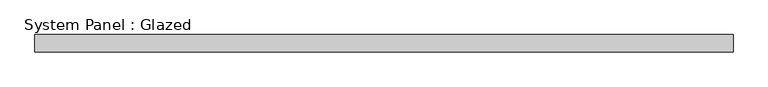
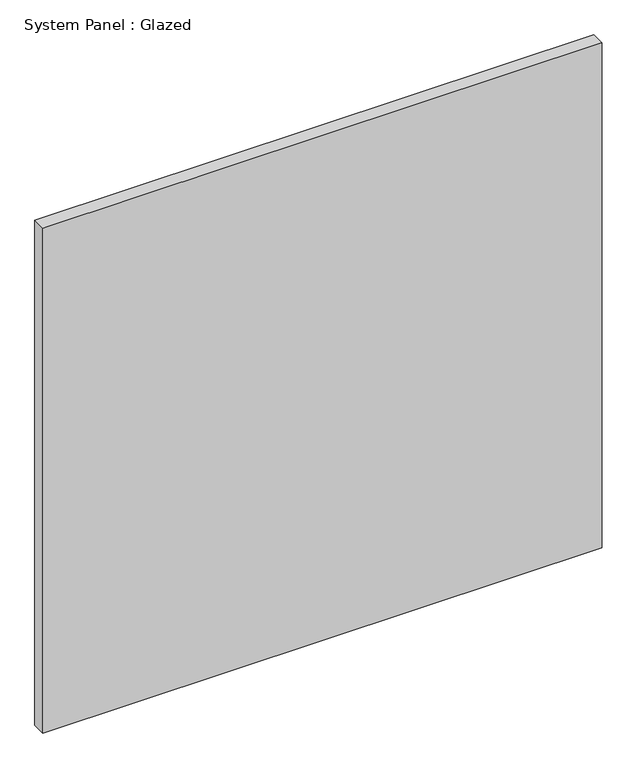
"""IFC4 building model written with IfcOpenShell, lengths in millimetres: plate geometry, System Panel : Glazed."""

from ifc_helpers import new_model, si_unit, origin, origin_with_axes, place, context, project, spatial, polyline, outline, extrude, source, transform, mapped, element, save


def system_panel_glazed_a1730ece(model_context):
    return source(origin(), model_context, "Body", "SweptSolid", [
        extrude(outline(polyline([(513.08, 19.05), (-513.08, 19.05), (-513.08, 44.45), (513.08, 44.45), (513.08, 19.05)])), origin_with_axes(), (0.0, 0.0, 1.0), 979.723638),
    ])


if __name__ == "__main__":
    model = new_model("IFC4")
    model_context = context("Model", 3, world=origin())
    ifc_project = project(units=[si_unit("LENGTHUNIT", "METRE", prefix="MILLI")], contexts=[model_context])
    site = spatial("IfcSite", under=ifc_project)
    building = spatial("IfcBuilding", under=site)
    placement = place(None, origin())
    system_panel_glazed_shape = system_panel_glazed_a1730ece(model_context)
    element("IfcPlate", 1, ObjectType="System Panel : Glazed", at=placement, inside=building, context=model_context, shape_type="MappedRepresentation", body=[
        mapped(system_panel_glazed_shape, transform((0.0, 0.0, 0.0), x_axis=(1.0, 0.0, 0.0), y_axis=(0.0, 1.0, 0.0), z_axis=(0.0, 0.0, 1.0))),
    ])
    save(model, "model.ifc")
